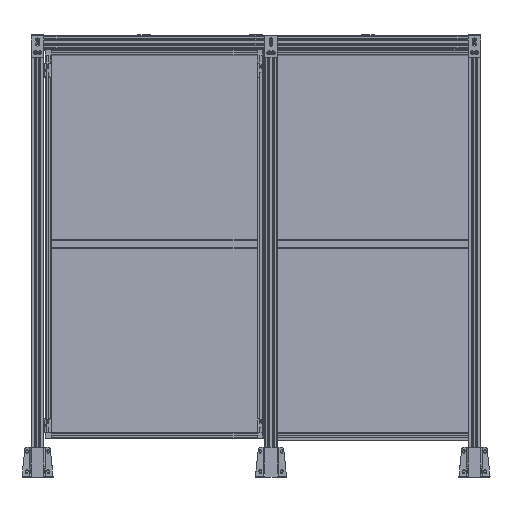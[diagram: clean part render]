
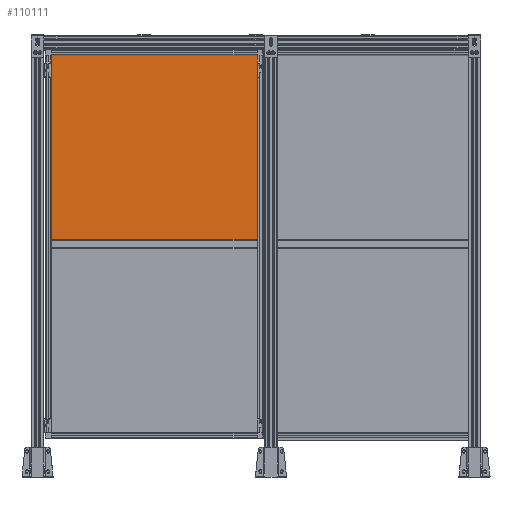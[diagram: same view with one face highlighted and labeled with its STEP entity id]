
A CAD part, front view. The second image highlights one B-rep face of the part: STEP entity #110111.
In plain terms, the highlighted planar face has unit normal (0, -1, 0).
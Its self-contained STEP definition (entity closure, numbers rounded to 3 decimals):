
#9268=FACE_OUTER_BOUND('',#15665,.T.);
#15665=EDGE_LOOP('',(#72558,#72559,#72560,#72561));
#22802=LINE('',#161681,#33810);
#22806=LINE('',#161689,#33814);
#22809=LINE('',#161695,#33817);
#22812=LINE('',#161700,#33820);
#33810=VECTOR('',#127937,10.);
#33814=VECTOR('',#127943,10.);
#33817=VECTOR('',#127948,10.);
#33820=VECTOR('',#127953,10.);
#44814=VERTEX_POINT('',#161679);
#44815=VERTEX_POINT('',#161680);
#44818=VERTEX_POINT('',#161688);
#44820=VERTEX_POINT('',#161694);
#55641=EDGE_CURVE('',#44814,#44815,#22802,.T.);
#55645=EDGE_CURVE('',#44815,#44818,#22806,.T.);
#55648=EDGE_CURVE('',#44818,#44820,#22809,.T.);
#55651=EDGE_CURVE('',#44820,#44814,#22812,.T.);
#72558=ORIENTED_EDGE('',*,*,#55641,.F.);
#72559=ORIENTED_EDGE('',*,*,#55651,.F.);
#72560=ORIENTED_EDGE('',*,*,#55648,.F.);
#72561=ORIENTED_EDGE('',*,*,#55645,.F.);
#106306=PLANE('',#116553);
#110111=ADVANCED_FACE('',(#9268),#106306,.T.);
#116553=AXIS2_PLACEMENT_3D('',#161702,#127955,#127956);
#127937=DIRECTION('',(1.,0.,0.));
#127943=DIRECTION('',(0.,0.,-1.));
#127948=DIRECTION('',(-1.,0.,0.));
#127953=DIRECTION('',(0.,0.,1.));
#127955=DIRECTION('center_axis',(0.,-1.,0.));
#127956=DIRECTION('ref_axis',(0.,0.,
-1.));
#161679=CARTESIAN_POINT('',(-3215.426,-4.691,693.5));
#161680=CARTESIAN_POINT('',(-2240.426,-4.691,693.5));
#161681=CARTESIAN_POINT('',(-3215.426,-4.691,693.5));
#161688=CARTESIAN_POINT('',(-2240.426,-4.691,-181.5));
#161689=CARTESIAN_POINT('',(-2240.426,-4.691,693.5));
#161694=CARTESIAN_POINT('',(-3215.426,-4.691,-181.5));
#161695=CARTESIAN_POINT('',(-2240.426,-4.691,-181.5));
#161700=CARTESIAN_POINT('',(-3215.426,-4.691,-181.5));
#161702=CARTESIAN_POINT('Origin',(-2727.926,-4.691,256.));
